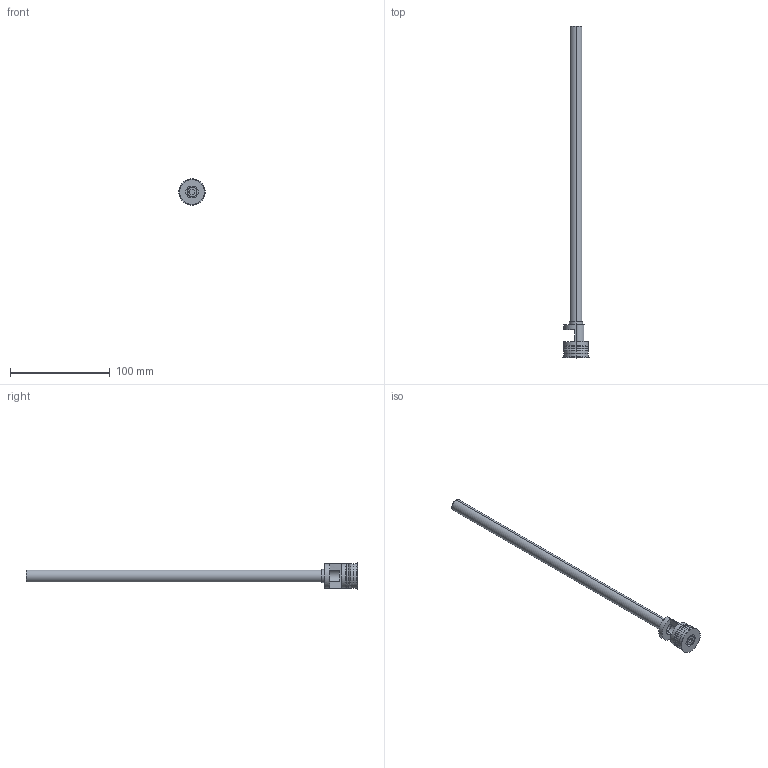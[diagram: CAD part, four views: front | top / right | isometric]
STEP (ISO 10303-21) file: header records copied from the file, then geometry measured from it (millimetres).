
FILE_DESCRIPTION (( 'STEP AP203' ), '1' );
FILE_NAME ('RF-25Fx300.STEP', '2015-11-24T14:03:18', ( 'Balzi' ), ( '' ), 'SwSTEP 2.0', 'SolidWorks 2015', '' );
FILE_SCHEMA (( 'CONFIG_CONTROL_DESIGN' ));
Length unit declared in the file: millimetre
Products named in the file (1): RF-25Fx300
Bounding box: 26.5 x 333.5 x 26.5 mm (x, y, z)
Volume: 15509.1 mm3; surface area: 26521.7 mm2
Topology: 1 solids, 1 shells, 74 faces, 170 edges, 106 vertices
Faces by surface type: plane 27, cylinder 25, cone 14, torus 8
Entity records: 2194 total; most frequent: DIRECTION 401, CARTESIAN_POINT 370, ORIENTED_EDGE 340, EDGE_CURVE 170, AXIS2_PLACEMENT_3D 161, VERTEX_POINT 106, CIRCLE 86, EDGE_LOOP 84
